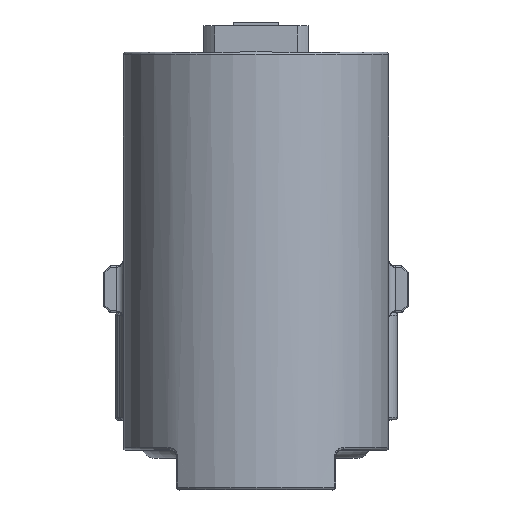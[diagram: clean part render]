
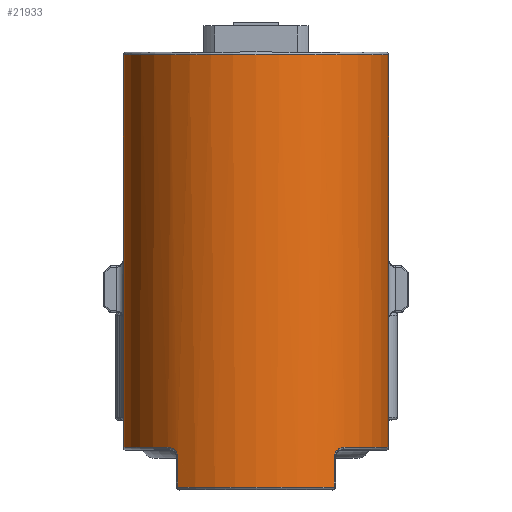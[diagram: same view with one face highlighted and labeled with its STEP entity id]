
A CAD part, top view. The second image highlights one B-rep face of the part: STEP entity #21933.
In plain terms, the highlighted cylindrical face has radius 10 mm (diameter 20 mm), a partial arc.
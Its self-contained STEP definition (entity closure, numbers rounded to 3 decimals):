
#527 = CARTESIAN_POINT ( 'NONE',  ( -5.918, -23.061, -32.8 ) ) ;
#614 = AXIS2_PLACEMENT_3D ( 'NONE', #28164, #18252, #10546 ) ;
#959 = CARTESIAN_POINT ( 'NONE',  ( 0., -15., -0.2 ) ) ;
#992 = CARTESIAN_POINT ( 'NONE',  ( 6.314, -22.755, -29.868 ) ) ;
#2315 = EDGE_LOOP ( 'NONE', ( #25253, #23015, #28735, #13728, #8916, #22305, #3568, #29094, #32382, #27809 ) ) ;
#2898 = CIRCLE ( 'NONE', #614, 10. ) ;
#3568 = ORIENTED_EDGE ( 'NONE', *, *, #28398, .T. ) ;
#3954 = LINE ( 'NONE', #14198, #24599 ) ;
#4037 = DIRECTION ( 'NONE',  ( 0., 0., 1. ) ) ;
#4395 = CARTESIAN_POINT ( 'NONE',  ( -5.918, -23.061, -30. ) ) ;
#4628 = B_SPLINE_CURVE_WITH_KNOTS ( 'NONE', 3,
 ( #8242, #8361, #13584, #28533, #28748, #23894, #992, #21245, #23794, #18818 ),
 .UNSPECIFIED., .F., .F.,
 ( 4, 2, 2, 2, 4 ),
 ( 0., 0., 0.001, 0.001, 0.001 ),
 .UNSPECIFIED. ) ;
#5233 = VERTEX_POINT ( 'NONE', #15936 ) ;
#6595 = EDGE_CURVE ( 'NONE', #19880, #24174, #22413, .T. ) ;
#6600 = CARTESIAN_POINT ( 'NONE',  ( -6.034, -22.975, -30.105 ) ) ;
#7268 = VERTEX_POINT ( 'NONE', #7976 ) ;
#7326 = DIRECTION ( 'NONE',  ( 0., 0., 1. ) ) ;
#7444 = LINE ( 'NONE', #22561, #17812 ) ;
#7575 = EDGE_CURVE ( 'NONE', #18636, #31914, #18100, .T. ) ;
#7976 = CARTESIAN_POINT ( 'NONE',  ( -10., -15., -0.2 ) ) ;
#8242 = CARTESIAN_POINT ( 'NONE',  ( 5.918, -23.061, -30.5 ) ) ;
#8361 = CARTESIAN_POINT ( 'NONE',  ( 5.918, -23.061, -30.392 ) ) ;
#8626 = CARTESIAN_POINT ( 'NONE',  ( -6.552, -22.555, -29.8 ) ) ;
#8783 = DIRECTION ( 'NONE',  ( 0., 0., 1. ) ) ;
#8914 = EDGE_CURVE ( 'NONE', #20247, #9035, #14436, .T. ) ;
#8916 = ORIENTED_EDGE ( 'NONE', *, *, #29191, .T. ) ;
#8987 = CARTESIAN_POINT ( 'NONE',  ( 5.918, -23.061, -32.8 ) ) ;
#9035 = VERTEX_POINT ( 'NONE', #27415 ) ;
#9292 = CARTESIAN_POINT ( 'NONE',  ( -6.237, -22.817, -29.91 ) ) ;
#9720 = VECTOR ( 'NONE', #24489, 1000. ) ;
#10478 = CYLINDRICAL_SURFACE ( 'NONE', #26803, 10. ) ;
#10546 = DIRECTION ( 'NONE',  ( -1., 0., 0. ) ) ;
#11825 = CARTESIAN_POINT ( 'NONE',  ( 0., -15., -29.8 ) ) ;
#12276 = AXIS2_PLACEMENT_3D ( 'NONE', #959, #13658, #26385 ) ;
#13215 = EDGE_CURVE ( 'NONE', #19880, #7268, #7444, .T. ) ;
#13584 = CARTESIAN_POINT ( 'NONE',  ( 5.944, -23.042, -30.287 ) ) ;
#13658 = DIRECTION ( 'NONE',  ( 0., 0., -1. ) ) ;
#13728 = ORIENTED_EDGE ( 'NONE', *, *, #6595, .T. ) ;
#14198 = CARTESIAN_POINT ( 'NONE',  ( 5.918, -23.061, -30. ) ) ;
#14436 = CIRCLE ( 'NONE', #27060, 10. ) ;
#15342 = AXIS2_PLACEMENT_3D ( 'NONE', #27649, #30452, #25454 ) ;
#15936 = CARTESIAN_POINT ( 'NONE',  ( 5.918, -23.061, -30.5 ) ) ;
#16863 = FACE_OUTER_BOUND ( 'NONE', #2315, .T. ) ;
#16953 = CARTESIAN_POINT ( 'NONE',  ( -6.633, -22.484, -29.8 ) ) ;
#16954 = DIRECTION ( 'NONE',  ( 1., 0., 0. ) ) ;
#17627 = EDGE_CURVE ( 'NONE', #23490, #5233, #3954, .T. ) ;
#17812 = VECTOR ( 'NONE', #7326, 1000. ) ;
#18025 = EDGE_CURVE ( 'NONE', #9035, #30078, #26918, .T. ) ;
#18100 = LINE ( 'NONE', #4395, #9720 ) ;
#18252 = DIRECTION ( 'NONE',  ( 0., 0., 1. ) ) ;
#18636 = VERTEX_POINT ( 'NONE', #18823 ) ;
#18818 = CARTESIAN_POINT ( 'NONE',  ( 6.633, -22.484, -29.8 ) ) ;
#18823 = CARTESIAN_POINT ( 'NONE',  ( -5.918, -23.061, -30.5 ) ) ;
#19880 = VERTEX_POINT ( 'NONE', #25131 ) ;
#20247 = VERTEX_POINT ( 'NONE', #32071 ) ;
#21245 = CARTESIAN_POINT ( 'NONE',  ( 6.472, -22.624, -29.813 ) ) ;
#21933 = ADVANCED_FACE ( 'NONE', ( #16863 ), #10478, .T. ) ;
#22052 = CARTESIAN_POINT ( 'NONE',  ( -6.472, -22.624, -29.813 ) ) ;
#22305 = ORIENTED_EDGE ( 'NONE', *, *, #7575, .T. ) ;
#22413 = CIRCLE ( 'NONE', #15342, 10. ) ;
#22519 = B_SPLINE_CURVE_WITH_KNOTS ( 'NONE', 3,
 ( #31360, #8626, #22052, #29338, #9292, #27001, #6600, #31900, #26771, #24362 ),
 .UNSPECIFIED., .F., .F.,
 ( 4, 2, 2, 2, 4 ),
 ( 0., 0., 0.001, 0.001, 0.001 ),
 .UNSPECIFIED. ) ;
#22561 = CARTESIAN_POINT ( 'NONE',  ( -10., -15., -30. ) ) ;
#23015 = ORIENTED_EDGE ( 'NONE', *, *, #26742, .T. ) ;
#23397 = VECTOR ( 'NONE', #4037, 1000. ) ;
#23490 = VERTEX_POINT ( 'NONE', #8987 ) ;
#23794 = CARTESIAN_POINT ( 'NONE',  ( 6.552, -22.555, -29.8 ) ) ;
#23894 = CARTESIAN_POINT ( 'NONE',  ( 6.237, -22.817, -29.91 ) ) ;
#24173 = DIRECTION ( 'NONE',  ( 0., 0., 1. ) ) ;
#24174 = VERTEX_POINT ( 'NONE', #16953 ) ;
#24289 = CARTESIAN_POINT ( 'NONE',  ( 0., -15., -30. ) ) ;
#24362 = CARTESIAN_POINT ( 'NONE',  ( -5.918, -23.061, -30.5 ) ) ;
#24489 = DIRECTION ( 'NONE',  ( 0., 0., -1. ) ) ;
#24599 = VECTOR ( 'NONE', #24173, 1000. ) ;
#25131 = CARTESIAN_POINT ( 'NONE',  ( -10., -15., -29.8 ) ) ;
#25253 = ORIENTED_EDGE ( 'NONE', *, *, #18025, .T. ) ;
#25454 = DIRECTION ( 'NONE',  ( 1., 0., 0. ) ) ;
#26263 = CARTESIAN_POINT ( 'NONE',  ( 10., -15., -0.2 ) ) ;
#26385 = DIRECTION ( 'NONE',  ( 1., 0., 0. ) ) ;
#26500 = DIRECTION ( 'NONE',  ( 1., 0., 0. ) ) ;
#26742 = EDGE_CURVE ( 'NONE', #30078, #7268, #32757, .T. ) ;
#26771 = CARTESIAN_POINT ( 'NONE',  ( -5.918, -23.061, -30.392 ) ) ;
#26803 = AXIS2_PLACEMENT_3D ( 'NONE', #24289, #8783, #26500 ) ;
#26918 = LINE ( 'NONE', #27318, #23397 ) ;
#27001 = CARTESIAN_POINT ( 'NONE',  ( -6.096, -22.927, -30.029 ) ) ;
#27060 = AXIS2_PLACEMENT_3D ( 'NONE', #11825, #32101, #16954 ) ;
#27318 = CARTESIAN_POINT ( 'NONE',  ( 10., -15., -30. ) ) ;
#27415 = CARTESIAN_POINT ( 'NONE',  ( 10., -15., -29.8 ) ) ;
#27649 = CARTESIAN_POINT ( 'NONE',  ( 0., -15., -29.8 ) ) ;
#27809 = ORIENTED_EDGE ( 'NONE', *, *, #8914, .T. ) ;
#28097 = EDGE_CURVE ( 'NONE', #5233, #20247, #4628, .T. ) ;
#28164 = CARTESIAN_POINT ( 'NONE',  ( 0., -15., -32.8 ) ) ;
#28398 = EDGE_CURVE ( 'NONE', #31914, #23490, #2898, .T. ) ;
#28533 = CARTESIAN_POINT ( 'NONE',  ( 6.034, -22.975, -30.105 ) ) ;
#28735 = ORIENTED_EDGE ( 'NONE', *, *, #13215, .F. ) ;
#28748 = CARTESIAN_POINT ( 'NONE',  ( 6.096, -22.927, -30.029 ) ) ;
#29094 = ORIENTED_EDGE ( 'NONE', *, *, #17627, .T. ) ;
#29191 = EDGE_CURVE ( 'NONE', #24174, #18636, #22519, .T. ) ;
#29338 = CARTESIAN_POINT ( 'NONE',  ( -6.313, -22.756, -29.868 ) ) ;
#30078 = VERTEX_POINT ( 'NONE', #26263 ) ;
#30452 = DIRECTION ( 'NONE',  ( 0., 0., 1. ) ) ;
#31360 = CARTESIAN_POINT ( 'NONE',  ( -6.633, -22.484, -29.8 ) ) ;
#31900 = CARTESIAN_POINT ( 'NONE',  ( -5.945, -23.041, -30.287 ) ) ;
#31914 = VERTEX_POINT ( 'NONE', #527 ) ;
#32071 = CARTESIAN_POINT ( 'NONE',  ( 6.633, -22.484, -29.8 ) ) ;
#32101 = DIRECTION ( 'NONE',  ( 0., 0., 1. ) ) ;
#32382 = ORIENTED_EDGE ( 'NONE', *, *, #28097, .T. ) ;
#32757 = CIRCLE ( 'NONE', #12276, 10. ) ;
